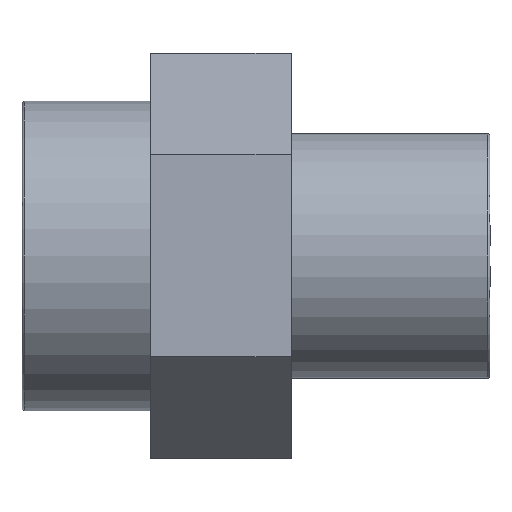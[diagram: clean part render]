
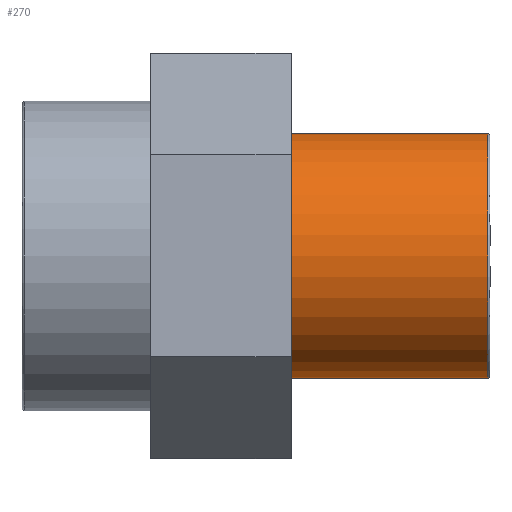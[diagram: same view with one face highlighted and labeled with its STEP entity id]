
A CAD part, front view. The second image highlights one B-rep face of the part: STEP entity #270.
In plain terms, the highlighted cylindrical face has radius 10.477 mm (diameter 20.955 mm), a full revolution.
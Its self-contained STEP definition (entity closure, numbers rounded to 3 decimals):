
#16=CYLINDRICAL_SURFACE('',#296,10.478);
#23=FACE_BOUND('',#82,.T.);
#36=CIRCLE('',#295,10.478);
#37=CIRCLE('',#297,10.478);
#58=FACE_OUTER_BOUND('',#81,.T.);
#81=EDGE_LOOP('',(#221));
#82=EDGE_LOOP('',(#222));
#151=VERTEX_POINT('',#443);
#152=VERTEX_POINT('',#446);
#181=EDGE_CURVE('',#151,#151,#36,.T.);
#182=EDGE_CURVE('',#152,#152,#37,.T.);
#221=ORIENTED_EDGE('',*,*,#182,.F.);
#222=ORIENTED_EDGE('',*,*,#181,.F.);
#270=ADVANCED_FACE('',(#58,#23),#16,.T.);
#295=AXIS2_PLACEMENT_3D('',#444,#360,#361);
#296=AXIS2_PLACEMENT_3D('',#445,#362,#363);
#297=AXIS2_PLACEMENT_3D('',#447,#364,#365);
#360=DIRECTION('center_axis',(1.,0.,0.));
#361=DIRECTION('ref_axis',(0.,1.,0.));
#362=DIRECTION('center_axis',(-1.,0.,0.));
#363=DIRECTION('ref_axis',(0.,-1.,0.));
#364=DIRECTION('center_axis',(-1.,0.,0.));
#365=DIRECTION('ref_axis',(0.,0.,1.));
#443=CARTESIAN_POINT('',(19.79,-10.478,0.));
#444=CARTESIAN_POINT('Origin',(19.79,0.,0.));
#445=CARTESIAN_POINT('Origin',(11.5,0.,0.));
#446=CARTESIAN_POINT('',(3.,-10.478,0.));
#447=CARTESIAN_POINT('Origin',(3.,0.,0.));
